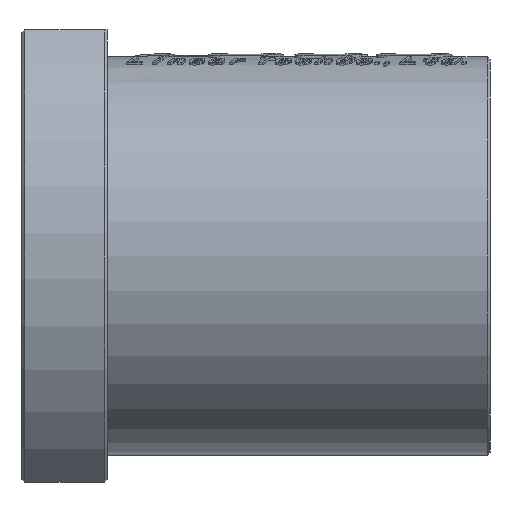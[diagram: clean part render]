
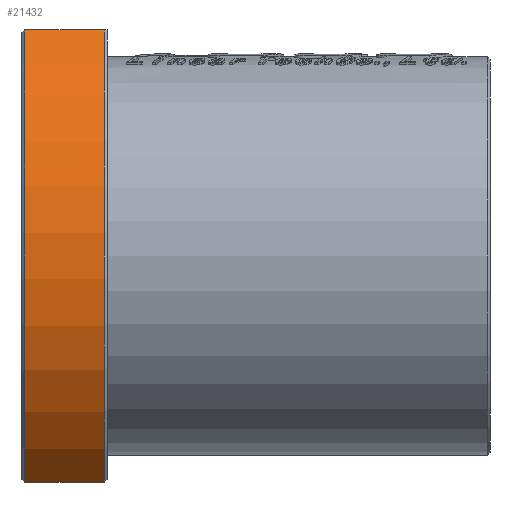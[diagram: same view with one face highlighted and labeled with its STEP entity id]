
A CAD part, front view. The second image highlights one B-rep face of the part: STEP entity #21432.
In plain terms, the highlighted cylindrical face has radius 55 mm (diameter 110 mm), a partial arc.
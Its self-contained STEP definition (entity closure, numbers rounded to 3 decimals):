
#416 = VERTEX_POINT ( 'NONE', #16425 ) ;
#2290 = DIRECTION ( 'NONE',  ( 1., 0., 0. ) ) ;
#2513 = CYLINDRICAL_SURFACE ( 'NONE', #8650, 55. ) ;
#3283 = DIRECTION ( 'NONE',  ( 1., 0., 0. ) ) ;
#3908 = AXIS2_PLACEMENT_3D ( 'NONE', #23362, #2290, #6890 ) ;
#4727 = ORIENTED_EDGE ( 'NONE', *, *, #29828, .F. ) ;
#5120 = CARTESIAN_POINT ( 'NONE',  ( -154.832, -14.021, 38.942 ) ) ;
#5640 = EDGE_CURVE ( 'NONE', #25362, #416, #11785, .T. ) ;
#6754 = CARTESIAN_POINT ( 'NONE',  ( -139.832, 20.889, -3.558 ) ) ;
#6890 = DIRECTION ( 'NONE',  ( 0., 0., -1. ) ) ;
#8650 = AXIS2_PLACEMENT_3D ( 'NONE', #18970, #28327, #26342 ) ;
#8746 = DIRECTION ( 'NONE',  ( -1., 0., 0. ) ) ;
#9486 = VERTEX_POINT ( 'NONE', #5120 ) ;
#9761 = ORIENTED_EDGE ( 'NONE', *, *, #17319, .T. ) ;
#10207 = LINE ( 'NONE', #26663, #27608 ) ;
#11661 = EDGE_LOOP ( 'NONE', ( #4727, #16293, #23552, #9761 ) ) ;
#11785 = CIRCLE ( 'NONE', #29481, 55. ) ;
#15693 = LINE ( 'NONE', #25053, #17261 ) ;
#16293 = ORIENTED_EDGE ( 'NONE', *, *, #5640, .T. ) ;
#16425 = CARTESIAN_POINT ( 'NONE',  ( -139.832, -14.021, 38.942 ) ) ;
#17186 = CARTESIAN_POINT ( 'NONE',  ( -154.832, -14.021, -46.058 ) ) ;
#17261 = VECTOR ( 'NONE', #8746, 1000. ) ;
#17319 = EDGE_CURVE ( 'NONE', #9486, #27471, #29440, .T. ) ;
#17556 = CARTESIAN_POINT ( 'NONE',  ( -139.832, -14.021, -46.058 ) ) ;
#18970 = CARTESIAN_POINT ( 'NONE',  ( -155.332, 20.889, -3.558 ) ) ;
#21432 = ADVANCED_FACE ( 'NONE', ( #21435 ), #2513, .T. ) ;
#21435 = FACE_OUTER_BOUND ( 'NONE', #11661, .T. ) ;
#23077 = DIRECTION ( 'NONE',  ( 0., 0., 1. ) ) ;
#23362 = CARTESIAN_POINT ( 'NONE',  ( -154.832, 20.889, -3.558 ) ) ;
#23552 = ORIENTED_EDGE ( 'NONE', *, *, #26447, .F. ) ;
#25053 = CARTESIAN_POINT ( 'NONE',  ( -155.332, -14.021, -46.058 ) ) ;
#25362 = VERTEX_POINT ( 'NONE', #17556 ) ;
#25527 = DIRECTION ( 'NONE',  ( -1., 0., 0. ) ) ;
#26342 = DIRECTION ( 'NONE',  ( 0., 0., 1. ) ) ;
#26447 = EDGE_CURVE ( 'NONE', #9486, #416, #10207, .T. ) ;
#26663 = CARTESIAN_POINT ( 'NONE',  ( -155.332, -14.021, 38.942 ) ) ;
#27471 = VERTEX_POINT ( 'NONE', #17186 ) ;
#27608 = VECTOR ( 'NONE', #3283, 1000. ) ;
#28327 = DIRECTION ( 'NONE',  ( -1., 0., 0. ) ) ;
#29440 = CIRCLE ( 'NONE', #3908, 55. ) ;
#29481 = AXIS2_PLACEMENT_3D ( 'NONE', #6754, #25527, #23077 ) ;
#29828 = EDGE_CURVE ( 'NONE', #25362, #27471, #15693, .T. ) ;
